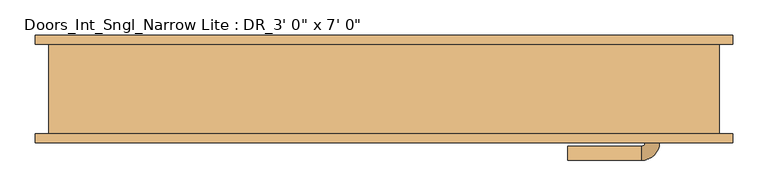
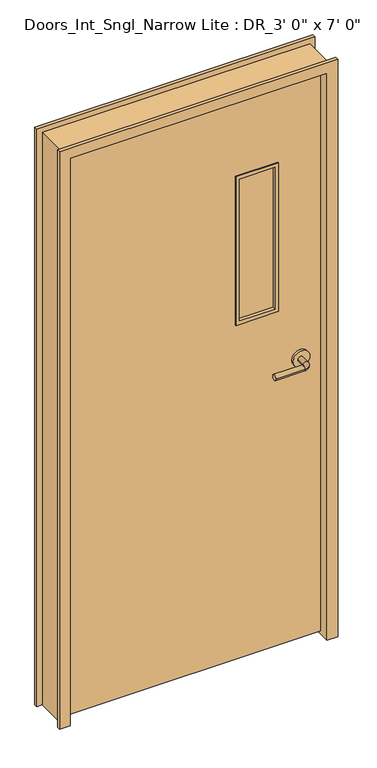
"""IFC4 building model written with IfcOpenShell, lengths in millimetres: door geometry."""

from ifc_helpers import new_model, si_unit, point, frame, frame_2d, origin, place, context, project, spatial, polyline, circle_curve, ellipse_curve, trimmed, segment, composite_curve, outline, extrude, faceted_brep, source, transform, mapped, element, save
from ifc_brep_helpers import plane_surface, cylinder_surface, revolved_surface, advanced_brep


def door_0907632d(model_context):
    return source(origin(), model_context, "Body", "SolidModel", [
        advanced_brep(
        [(391.0, -46.1, 1066.8), (371.0, -46.1, 1066.8), (391.0, -76.1, 1066.8), (371.0, -76.1, 1066.8), (366.0, -81.1, 1066.8), (366.0, -101.1, 1066.8), (261.0, -101.1, 1066.8), (261.0, -81.1, 1066.8)],
        [
            (0, 1, circle_curve(frame((381.0, -46.1, 1066.8), z_axis=(0.0, 1.0, 0.0), x_axis=(-0.9999999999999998, 0.0, 0.0)), 10.0)),
            (1, 0, circle_curve(frame((381.0, -46.1, 1066.8), z_axis=(0.0, 1.0, 0.0), x_axis=(-0.9999999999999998, 0.0, 0.0)), 10.0)),
            (0, 2),
            (2, 3, circle_curve(frame((381.0, -76.1, 1066.8), z_axis=(0.0, 1.0, 0.0), x_axis=(-0.9999999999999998, 0.0, 0.0)), 10.0)),
            (3, 1),
            (3, 2, circle_curve(frame((381.0, -76.1, 1066.8), z_axis=(0.0, 1.0, 0.0), x_axis=(-0.9999999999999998, 0.0, 0.0)), 10.0)),
            (4, 3, circle_curve(frame((366.0, -76.1, 1066.8), z_axis=(0.0, 0.0, 1.0), x_axis=(0.9999999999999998, 0.0, 0.0)), 5.0)),
            (2, 5, circle_curve(frame((366.0, -76.1, 1066.8), z_axis=(0.0, 0.0, -1.0), x_axis=(0.9999999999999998, 0.0, 0.0)), 25.0)),
            (5, 4, circle_curve(frame((366.0, -91.1, 1066.8), z_axis=(0.9999999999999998, 0.0, 0.0), x_axis=(0.0, 0.9999999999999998, 0.0)), 10.0)),
            (4, 5, circle_curve(frame((366.0, -91.1, 1066.8), z_axis=(0.9999999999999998, 0.0, 0.0), x_axis=(0.0, 0.9999999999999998, 0.0)), 10.0)),
            (6, 7, circle_curve(frame((261.0, -91.1, 1066.8), z_axis=(-1.0, 0.0, 0.0), x_axis=(0.0, 0.9999999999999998, 0.0)), 10.0)),
            (7, 6, circle_curve(frame((261.0, -91.1, 1066.8), z_axis=(-1.0, 0.0, 0.0), x_axis=(0.0, 0.9999999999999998, 0.0)), 10.0)),
            (5, 6),
            (7, 4),
        ],
        [
            plane_surface(frame((381.0, -46.1, 1066.8), z_axis=(0.0, 1.0, 0.0), x_axis=(0.0, 0.0, 1.0))),
            cylinder_surface(frame((381.0, -46.1, 1066.8), z_axis=(0.0, 0.9999999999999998, 0.0), x_axis=(-0.9999999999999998, 0.0, 0.0)), 10.0),
            revolved_surface(trimmed(ellipse_curve(frame((381.0, -76.1, 1066.8), z_axis=(0.0, 0.9999999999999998, 0.0), x_axis=(-0.9999999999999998, 0.0, 0.0)), 10.0, 10.0), [point((391.0, -76.1, 1066.8))], [point((371.0, -76.1, 1066.8))], True, "CARTESIAN"), (366.0, -76.1, 1066.8), (0.0, 0.0, -1.0)),
            revolved_surface(trimmed(ellipse_curve(frame((381.0, -76.1, 1066.8), z_axis=(0.0, 0.9999999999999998, 0.0), x_axis=(-0.9999999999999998, 0.0, 0.0)), 10.0, 10.0), [point((371.0, -76.1, 1066.8))], [point((391.0, -76.1, 1066.8))], True, "CARTESIAN"), (366.0, -76.1, 1066.8), (0.0, 0.0, -1.0)),
            plane_surface(frame((261.0, -91.1, 1066.8), z_axis=(-1.0, 0.0, 0.0), x_axis=(0.0, 0.0, 1.0))),
            cylinder_surface(frame((366.0, -91.1, 1066.8), z_axis=(0.9999999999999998, 0.0, 0.0), x_axis=(0.0, 0.9999999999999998, 0.0)), 10.0),
        ],
        [
            (0, [[1, 2]]),
            (1, [[-1, 3, 4, 5]]),
            (1, [[-2, -5, 6, -3]]),
            (2, [[7, -4, 8, 9]]),
            (3, [[-8, -6, -7, 10]]),
            (4, [[11, 12]]),
            (5, [[-9, 13, -12, 14]]),
            (5, [[-10, -14, -11, -13]]),
        ],
    ),
        extrude(outline(composite_curve([segment(trimmed(circle_curve(frame_2d((1066.8, 383.5)), 30.0), [point((1066.8, 413.5))], [point((1066.8, 353.5))], False, "CARTESIAN"), True, "CONTINUOUS"), segment(trimmed(circle_curve(frame_2d((1066.8, 383.5)), 30.0), [point((1066.8, 353.5))], [point((1066.8, 413.5))], False, "CARTESIAN"), True, "CONTINUOUS")], self_intersect=False)), frame((0.0, -46.1, 0.0), z_axis=(0.0, 1.0, 0.0), x_axis=(0.0, 0.0, 1.0)), (0.0, 0.0, 1.0), 8.0),
        advanced_brep(
        [(391.0, 14.35, 1066.8), (371.0, 14.35, 1066.8), (371.0, 44.35, 1066.8), (391.0, 44.35, 1066.8), (366.0, 49.35, 1066.8), (366.0, 69.35, 1066.8), (261.0, 69.35, 1066.8), (261.0, 49.35, 1066.8)],
        [
            (0, 1, circle_curve(frame((381.0, 14.35, 1066.8), z_axis=(0.0, -1.0, 0.0), x_axis=(-0.9999999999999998, 0.0, 0.0)), 10.0)),
            (1, 0, circle_curve(frame((381.0, 14.35, 1066.8), z_axis=(0.0, -1.0, 0.0), x_axis=(-0.9999999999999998, 0.0, 0.0)), 10.0)),
            (1, 2),
            (2, 3, circle_curve(frame((381.0, 44.35, 1066.8), z_axis=(0.0, -1.0, 0.0), x_axis=(-0.9999999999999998, 0.0, 0.0)), 10.0)),
            (3, 0),
            (3, 2, circle_curve(frame((381.0, 44.35, 1066.8), z_axis=(0.0, -1.0, 0.0), x_axis=(-0.9999999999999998, 0.0, 0.0)), 10.0)),
            (4, 5, circle_curve(frame((366.0, 59.35, 1066.8), z_axis=(0.9999999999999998, 0.0, 0.0), x_axis=(0.0, -0.9999999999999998, 0.0)), 10.0)),
            (5, 3, circle_curve(frame((366.0, 44.35, 1066.8), z_axis=(0.0, 0.0, -1.0), x_axis=(0.9999999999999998, 0.0, 0.0)), 25.0)),
            (2, 4, circle_curve(frame((366.0, 44.35, 1066.8), z_axis=(0.0, 0.0, 1.0), x_axis=(0.9999999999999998, 0.0, 0.0)), 5.0)),
            (5, 4, circle_curve(frame((366.0, 59.35, 1066.8), z_axis=(0.9999999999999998, 0.0, 0.0), x_axis=(0.0, -0.9999999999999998, 0.0)), 10.0)),
            (6, 7, circle_curve(frame((261.0, 59.35, 1066.8), z_axis=(-1.0, 0.0, 0.0), x_axis=(0.0, -0.9999999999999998, 0.0)), 10.0)),
            (7, 6, circle_curve(frame((261.0, 59.35, 1066.8), z_axis=(-1.0, 0.0, 0.0), x_axis=(0.0, -0.9999999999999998, 0.0)), 10.0)),
            (4, 7),
            (6, 5),
        ],
        [
            plane_surface(frame((381.0, 14.35, 1066.8), z_axis=(0.0, -1.0, 0.0), x_axis=(0.0, 0.0, 1.0))),
            cylinder_surface(frame((381.0, 14.35, 1066.8), z_axis=(0.0, -0.9999999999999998, 0.0), x_axis=(-0.9999999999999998, 0.0, 0.0)), 10.0),
            revolved_surface(trimmed(ellipse_curve(frame((381.0, 44.35, 1066.8), z_axis=(0.0, 0.9999999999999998, 0.0), x_axis=(-0.9999999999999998, 0.0, 0.0)), 10.0, 10.0), [point((391.0, 44.35, 1066.8))], [point((371.0, 44.35, 1066.8))], True, "CARTESIAN"), (366.0, 44.35, 1066.8), (0.0, 0.0, -1.0)),
            revolved_surface(trimmed(ellipse_curve(frame((381.0, 44.35, 1066.8), z_axis=(0.0, 0.9999999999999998, 0.0), x_axis=(-0.9999999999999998, 0.0, 0.0)), 10.0, 10.0), [point((371.0, 44.35, 1066.8))], [point((391.0, 44.35, 1066.8))], True, "CARTESIAN"), (366.0, 44.35, 1066.8), (0.0, 0.0, -1.0)),
            plane_surface(frame((261.0, 59.35, 1066.8), z_axis=(-1.0, 0.0, 0.0), x_axis=(0.0, 0.0, 1.0))),
            cylinder_surface(frame((366.0, 59.35, 1066.8), z_axis=(0.9999999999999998, 0.0, 0.0), x_axis=(0.0, -0.9999999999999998, 0.0)), 10.0),
        ],
        [
            (0, [[1, 2]]),
            (1, [[3, 4, 5, -2]]),
            (1, [[-5, 6, -3, -1]]),
            (2, [[7, 8, -4, 9]]),
            (3, [[10, -9, -6, -8]]),
            (4, [[11, 12]]),
            (5, [[13, -11, 14, -7]]),
            (5, [[-14, -12, -13, -10]]),
        ],
    ),
        extrude(outline(composite_curve([segment(trimmed(circle_curve(frame_2d((1066.8, 383.5)), 30.0), [point((1066.8, 413.5))], [point((1066.8, 353.5))], False, "CARTESIAN"), True, "CONTINUOUS"), segment(trimmed(circle_curve(frame_2d((1066.8, 383.5)), 30.0), [point((1066.8, 353.5))], [point((1066.8, 413.5))], False, "CARTESIAN"), True, "CONTINUOUS")], self_intersect=False)), frame((0.0, 6.35, 0.0), z_axis=(0.0, 1.0, 0.0), x_axis=(0.0, 0.0, 1.0)), (0.0, 0.0, 1.0), 8.0),
        extrude(outline(polyline([(292.1, -3.175), (292.1, -28.575), (165.1, -28.575), (165.1, -3.175), (292.1, -3.175)])), frame((0.0, 0.0, 1282.7), z_axis=(0.0, 0.0, 1.0), x_axis=(1.0, 0.0, 0.0)), (0.0, 0.0, 1.0), 533.4),
        extrude(outline(polyline([(1270.0, 152.4), (1270.0, 304.8), (1828.8, 304.8), (1828.8, 152.4), (1270.0, 152.4)]), holes=[polyline([(1282.7, 165.1), (1816.1, 165.1), (1816.1, 292.1), (1282.7, 292.1), (1282.7, 165.1)])]), frame((0.0, -41.275, 0.0), z_axis=(0.0, 1.0, 0.0), x_axis=(0.0, 0.0, 1.0)), (0.0, 0.0, 1.0), 50.8),
        extrude(outline(polyline([(2133.6, 457.2), (2133.6, -457.2), (12.7, -457.2), (12.7, 457.2), (2133.6, 457.2)]), holes=[polyline([(1270.0, 152.4), (1828.8, 152.4), (1828.8, 304.8), (1270.0, 304.8), (1270.0, 152.4)])]), frame((0.0, -38.1, 0.0), z_axis=(0.0, 1.0, 0.0), x_axis=(0.0, 0.0, 1.0)), (0.0, 0.0, 1.0), 44.45),
        faceted_brep([(-457.2, 76.2, 0.0), (-457.2, -76.2, 0.0), (-495.3, -76.2, 0.0), (-495.3, -63.5, 0.0), (-476.25, -63.5, 0.0), (-476.25, 63.5, 0.0), (-495.3, 63.5, 0.0), (-495.3, 76.2, 0.0), (-495.3, 76.2, 2171.7), (495.3, 76.2, 2171.7), (495.3, 76.2, 0.0), (457.2, 76.2, 0.0), (457.2, 76.2, 2133.6), (-457.2, 76.2, 2133.6), (-495.3, 63.5, 2171.7), (-476.25, 63.5, 2152.65), (476.25, 63.5, 2152.65), (476.25, 63.5, 0.0), (495.3, 63.5, 0.0), (495.3, 63.5, 2171.7), (-476.25, -63.5, 2152.65), (-495.3, -63.5, 2171.7), (495.3, -63.5, 2171.7), (495.3, -63.5, 0.0), (476.25, -63.5, 0.0), (476.25, -63.5, 2152.65), (-495.3, -76.2, 2171.7), (-457.2, -76.2, 2133.6), (457.2, -76.2, 2133.6), (457.2, -76.2, 0.0), (495.3, -76.2, 0.0), (495.3, -76.2, 2171.7)], [[[0, 1, 2, 3, 4, 5, 6, 7]], [[7, 8, 9, 10, 11, 12, 13, 0]], [[6, 14, 8, 7]], [[5, 15, 16, 17, 18, 19, 14, 6]], [[4, 20, 15, 5]], [[3, 21, 22, 23, 24, 25, 20, 4]], [[2, 26, 21, 3]], [[1, 27, 28, 29, 30, 31, 26, 2]], [[0, 13, 27, 1]], [[12, 11, 29, 28]], [[11, 10, 18, 17, 24, 23, 30, 29]], [[19, 18, 10, 9]], [[31, 30, 23, 22]], [[25, 24, 17, 16]], [[20, 25, 16, 15]], [[13, 12, 28, 27]], [[14, 19, 9, 8]], [[26, 31, 22, 21]]]),
    ])


if __name__ == "__main__":
    model = new_model("IFC4")
    model_context = context("Model", 3, world=origin())
    ifc_project = project(units=[si_unit("LENGTHUNIT", "METRE", prefix="MILLI")], contexts=[model_context])
    site = spatial("IfcSite", under=ifc_project)
    building = spatial("IfcBuilding", under=site)
    placement = place(None, origin())
    door_shape = door_0907632d(model_context)
    element("IfcDoor", 1, ObjectType="Doors_Int_Sngl_Narrow Lite : DR_3' 0\" x 7' 0\"", at=placement, inside=building, context=model_context, shape_type="MappedRepresentation", body=[
        mapped(door_shape, transform((0.0, 0.0, 0.0), x_axis=(1.0, 0.0, 0.0), y_axis=(0.0, 1.0, 0.0), z_axis=(0.0, 0.0, 1.0))),
    ])
    save(model, "model.ifc")
